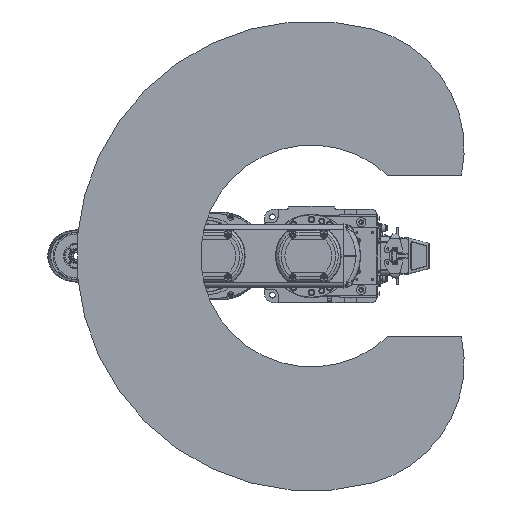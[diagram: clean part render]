
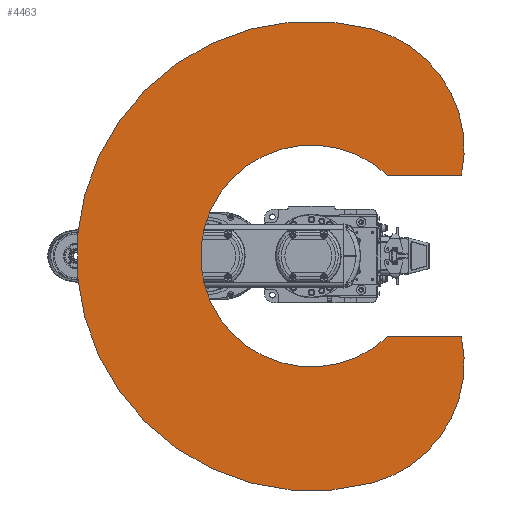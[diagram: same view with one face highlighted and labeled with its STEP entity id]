
A CAD part, front view. The second image highlights one B-rep face of the part: STEP entity #4463.
In plain terms, the highlighted planar face has unit normal (0, -1, 0).
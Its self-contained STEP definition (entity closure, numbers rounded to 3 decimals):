
#4463 = ADVANCED_FACE( '', ( #11796 ), #11797, .F. );
#11796 = FACE_OUTER_BOUND( '', #23283, .T. );
#11797 = PLANE( '', #23284 );
#23283 = EDGE_LOOP( '', ( #37398, #37399, #37400, #37401, #37402, #37403 ) );
#23284 = AXIS2_PLACEMENT_3D( '', #37404, #37405, #37406 );
#37398 = ORIENTED_EDGE( '', *, *, #62473, .T. );
#37399 = ORIENTED_EDGE( '', *, *, #62474, .F. );
#37400 = ORIENTED_EDGE( '', *, *, #62475, .F. );
#37401 = ORIENTED_EDGE( '', *, *, #62476, .F. );
#37402 = ORIENTED_EDGE( '', *, *, #62477, .T. );
#37403 = ORIENTED_EDGE( '', *, *, #62478, .F. );
#37404 = CARTESIAN_POINT( '', ( 102.614, 0., 27.495 ) );
#37405 = DIRECTION( '', ( 0., 1., 0. ) );
#37406 = DIRECTION( '', ( 0., 0., 1. ) );
#62473 = EDGE_CURVE( '', #74090, #74091, #74092, .T. );
#62474 = EDGE_CURVE( '', #74093, #74091, #74094, .T. );
#62475 = EDGE_CURVE( '', #74095, #74093, #74096, .T. );
#62476 = EDGE_CURVE( '', #74097, #74095, #74098, .T. );
#62477 = EDGE_CURVE( '', #74097, #74099, #74100, .T. );
#62478 = EDGE_CURVE( '', #74090, #74099, #74101, .F. );
#74090 = VERTEX_POINT( '', #92124 );
#74091 = VERTEX_POINT( '', #92125 );
#74092 = LINE( '', #92126, #92127 );
#74093 = VERTEX_POINT( '', #92128 );
#74094 = CIRCLE( '', #92129, 237.533 );
#74095 = VERTEX_POINT( '', #92130 );
#74096 = CIRCLE( '', #92131, 450. );
#74097 = VERTEX_POINT( '', #92132 );
#74098 = CIRCLE( '', #92133, 237.533 );
#74099 = VERTEX_POINT( '', #92134 );
#74100 = LINE( '', #92135, #92136 );
#74101 = CIRCLE( '', #92137, 212.47 );
#92124 = CARTESIAN_POINT( '', ( -155., 0., 145.322 ) );
#92125 = CARTESIAN_POINT( '', ( -155., 0., 287.152 ) );
#92126 = CARTESIAN_POINT( '', ( -155., 0., 0. ) );
#92127 = VECTOR( '', #112789, 1000. );
#92128 = CARTESIAN_POINT( '', ( -434.667, 0., 116.469 ) );
#92129 = AXIS2_PLACEMENT_3D( '', #112790, #112791, #112792 );
#92130 = CARTESIAN_POINT( '', ( 434.667, 0., 116.469 ) );
#92131 = AXIS2_PLACEMENT_3D( '', #112793, #112794, #112795 );
#92132 = CARTESIAN_POINT( '', ( 155., 0., 287.152 ) );
#92133 = AXIS2_PLACEMENT_3D( '', #112796, #112797, #112798 );
#92134 = CARTESIAN_POINT( '', ( 155., 0., 145.322 ) );
#92135 = CARTESIAN_POINT( '', ( 155., 0., 305. ) );
#92136 = VECTOR( '', #112799, 1000. );
#92137 = AXIS2_PLACEMENT_3D( '', #112800, #112801, #112802 );
#112789 = DIRECTION( '', ( 0., 0., 1. ) );
#112790 = CARTESIAN_POINT( '', ( -205.228, 0., 54.991 ) );
#112791 = DIRECTION( '', ( 0., 1., 0. ) );
#112792 = DIRECTION( '', ( 1., 0., 0. ) );
#112793 = CARTESIAN_POINT( '', ( 0., 0., 0. ) );
#112794 = DIRECTION( '', ( 0., 1., 0. ) );
#112795 = DIRECTION( '', ( 1., 0., 0. ) );
#112796 = CARTESIAN_POINT( '', ( 205.228, 0., 54.991 ) );
#112797 = DIRECTION( '', ( 0., 1., 0. ) );
#112798 = DIRECTION( '', ( 1., 0., 0. ) );
#112799 = DIRECTION( '', ( 0., 0., -1. ) );
#112800 = CARTESIAN_POINT( '', ( 0., 0., 0. ) );
#112801 = DIRECTION( '', ( 0., 1., 0. ) );
#112802 = DIRECTION( '', ( 0., 0., 1. ) );
